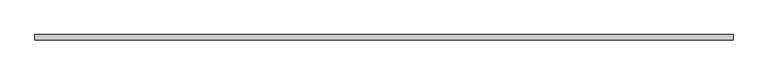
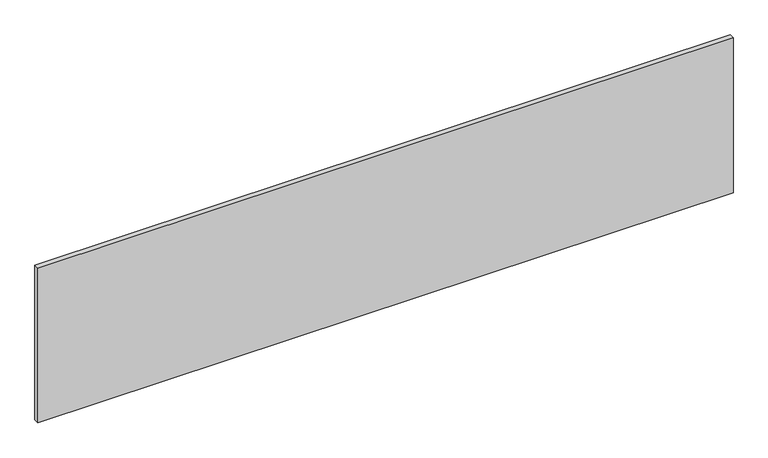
"""IFC4 building model written with IfcOpenShell, lengths in millimetres: plate geometry, 系统嵌板 : 玻璃."""

from ifc_helpers import new_model, si_unit, origin, origin_with_axes, place, context, project, spatial, polyline, outline, extrude, source, transform, mapped, element, save


def plate_8697d8f9(model_context):
    return source(origin(), model_context, "Body", "SweptSolid", [
        extrude(outline(polyline([(1635.0, -12.5), (-1635.0, -12.5), (-1635.0, 12.5), (1635.0, 12.5), (1635.0, -12.5)])), origin_with_axes(), (0.0, 0.0, 1.0), 770.0),
    ])


if __name__ == "__main__":
    model = new_model("IFC4")
    model_context = context("Model", 3, world=origin())
    ifc_project = project(units=[si_unit("LENGTHUNIT", "METRE", prefix="MILLI")], contexts=[model_context])
    site = spatial("IfcSite", under=ifc_project)
    building = spatial("IfcBuilding", under=site)
    placement = place(None, origin())
    plate_shape = plate_8697d8f9(model_context)
    element("IfcPlate", 1, ObjectType="系统嵌板 : 玻璃", at=placement, inside=building, context=model_context, shape_type="MappedRepresentation", body=[
        mapped(plate_shape, transform((0.0, 0.0, 0.0), x_axis=(1.0, 0.0, 0.0), y_axis=(0.0, 1.0, 0.0), z_axis=(0.0, 0.0, 1.0))),
    ])
    save(model, "model.ifc")
